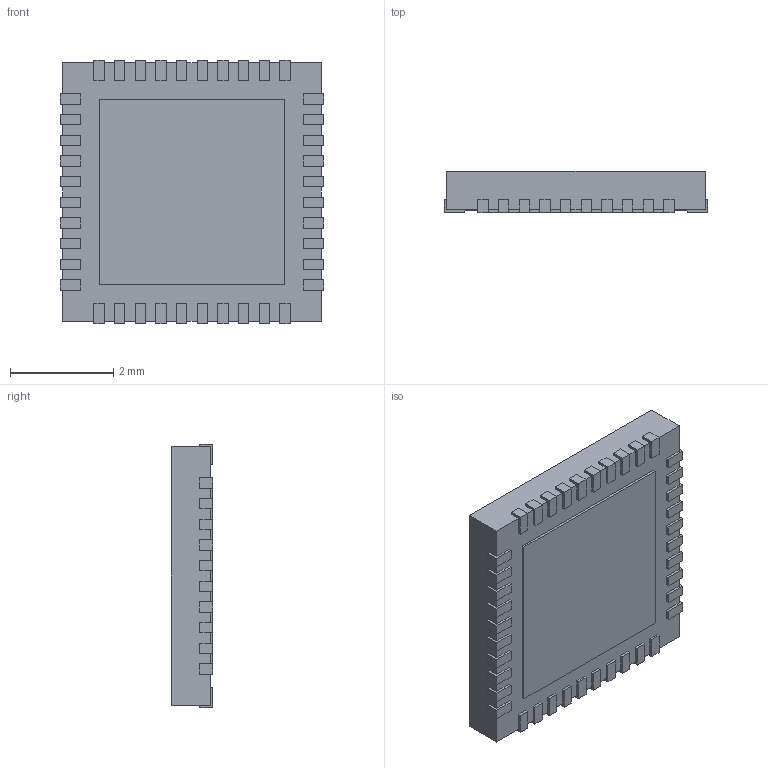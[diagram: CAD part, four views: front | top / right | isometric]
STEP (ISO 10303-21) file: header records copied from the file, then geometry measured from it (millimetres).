
FILE_DESCRIPTION (( 'STEP AP214' ), '1' );
FILE_NAME ( 'QFN41P40_500X500X80L40X20T360.STEP', '2021-10-06T06:49:12', ( '' ), ( '' ), '', '©2017 PCB Libraries, Inc.', '' );
FILE_SCHEMA (( 'AUTOMOTIVE_DESIGN' ));
Length unit declared in the file: millimetre
Products named in the file (1): QFN41P40_500X500X80L40X20T360
Bounding box: 5.1 x 0.8 x 5.1 mm (x, y, z)
Volume: 19.6 mm3; surface area: 104.5 mm2
Topology: 42 solids, 42 shells, 335 faces, 750 edges, 500 vertices
Faces by surface type: plane 333, torus 2
Entity records: 10489 total; most frequent: CARTESIAN_POINT 1586, ORIENTED_EDGE 1500, DIRECTION 1428, EDGE_CURVE 750, VECTOR 744, LINE 744, VERTEX_POINT 500, STYLED_ITEM 378
